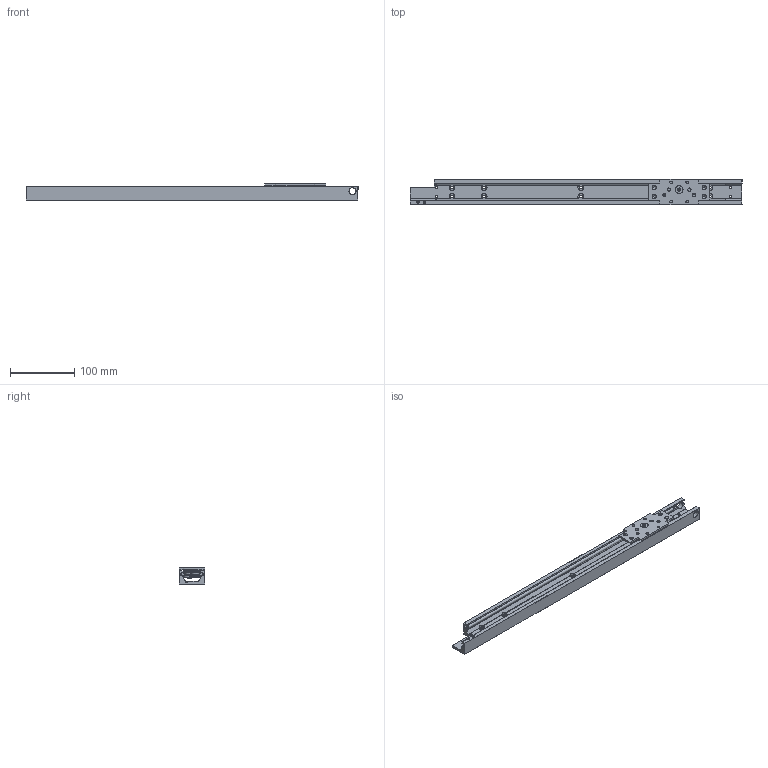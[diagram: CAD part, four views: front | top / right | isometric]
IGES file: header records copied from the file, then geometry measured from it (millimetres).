
Global section: file name:  ; native system: Kubotek KeyCreator; preprocessor: KCM Version 1.1.28; author: KeyCreator•p{ž; organization: Self; date: 20161130.232908; units: millimetre
Bounding box: 515 x 40 x 25.03 mm (x, y, z)
Surface area: 111349.8 mm2 (no closed solid volume)
Topology: 0 solids, 0 shells, 318 faces, 1616 edges, 1490 vertices
Faces by surface type: revolution 183, plane 116, bspline 19
